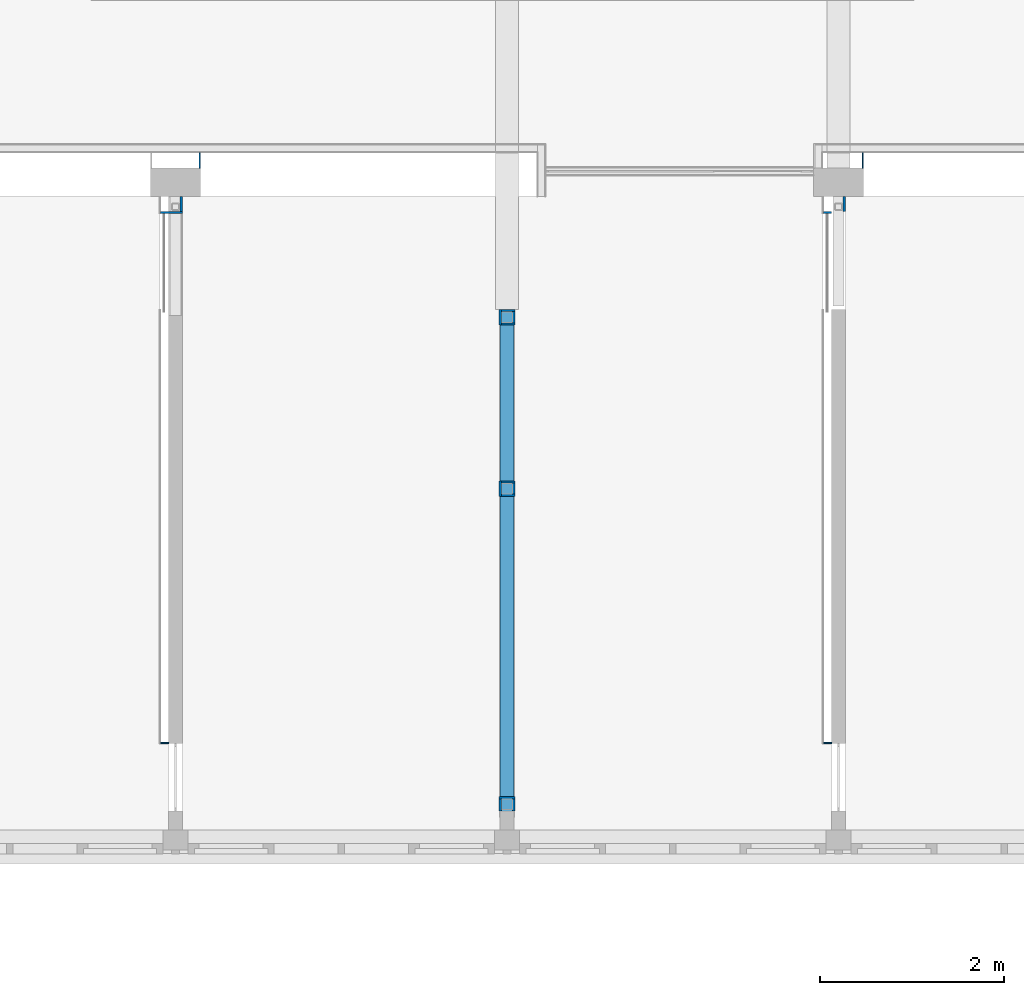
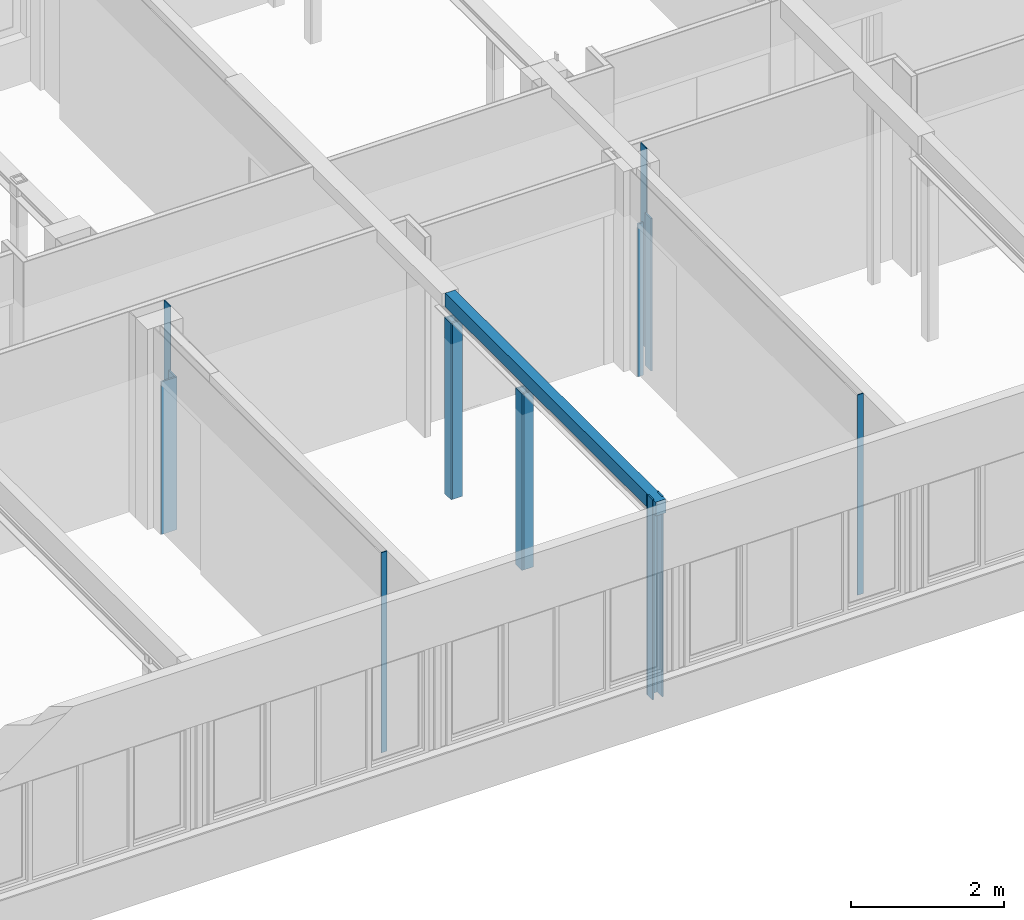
# One storey, part 51 of 99: 20 walls.
"""IFC2X3 building model written with IfcOpenShell, lengths in millimetres."""

from ifc_helpers import new_model, entity, si_unit, converted_unit, derived_unit, money_unit, direction, frame, origin_with_axes, place, context, subcontext, project, spatial, faceted_brep, material, type_object, element, save


model = new_model("IFC2X3")

# Units and contexts
model_context = context("Model", 3, precision=0.01, world=origin_with_axes(), true_north=direction((0.0, 1.0)))
body_context = subcontext(model_context, "Body", "Model", "MODEL_VIEW")
ifc_project = project(units=[si_unit("LENGTHUNIT", "METRE", prefix="MILLI"), si_unit("AREAUNIT", "SQUARE_METRE"), si_unit("VOLUMEUNIT", "CUBIC_METRE"), converted_unit("PLANEANGLEUNIT", "DEGREE", entity("IfcPlaneAngleMeasure", 0.0174532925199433), si_unit("PLANEANGLEUNIT", "RADIAN"), dimensions=[0, 0, 0, 0, 0, 0, 0]), money_unit("EUR"), converted_unit("TIMEUNIT", "Year", entity("IfcTimeMeasure", 31557600.0), si_unit("TIMEUNIT", "SECOND"), dimensions=[0, 0, 1, 0, 0, 0, 0]), si_unit("MASSUNIT", "GRAM", prefix="KILO"), si_unit("THERMODYNAMICTEMPERATUREUNIT", "DEGREE_CELSIUS"), si_unit("LUMINOUSINTENSITYUNIT", "LUMEN"), si_unit("ENERGYUNIT", "JOULE", prefix="MEGA"), derived_unit("THERMALCONDUCTANCEUNIT", [(si_unit("POWERUNIT", "WATT"), 1), (si_unit("LENGTHUNIT", "METRE"), -1), (si_unit("THERMODYNAMICTEMPERATUREUNIT", "KELVIN"), -1)]), derived_unit("SPECIFICHEATCAPACITYUNIT", [(si_unit("ENERGYUNIT", "JOULE"), 1), (si_unit("MASSUNIT", "GRAM", prefix="KILO"), -1), (si_unit("THERMODYNAMICTEMPERATUREUNIT", "KELVIN"), -1)]), derived_unit("MASSDENSITYUNIT", [(si_unit("MASSUNIT", "GRAM", prefix="KILO"), 1), (si_unit("VOLUMEUNIT", "CUBIC_METRE"), -1)])], contexts=[model_context])

# Site, building, storey
site_placement = place(None, origin_with_axes())
site = spatial("IfcSite", under=ifc_project, at=site_placement, Name="Site", CompositionType="ELEMENT")
building_placement = place(site_placement, origin_with_axes())
building = spatial("IfcBuilding", under=site, at=building_placement, Name="Naam gebouw", CompositionType="ELEMENT")
storey_placement = place(building_placement, frame((0.0, 0.0, 7650.0), z_axis=(0.0, 0.0, 1.0), x_axis=(1.0, 0.0, 0.0)))
storey = spatial("IfcBuildingStorey", under=building, at=storey_placement, Name="2e verdieping N", CompositionType="ELEMENT", Elevation=7650.0)

# Walls
ifc_material_1 = material(Name="Gipsplaat")
wall_type_1 = type_object("IfcWallType", Name="Metalstud 100 enkel 100", PredefinedType="NOTDEFINED")
for number, where, z_axis, x_axis, name in (
    (1, (43469.99999999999, 18180.91242510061, 0.0), (0.0, 0.0, 1.0), (0.0, 1.0, 0.0), "_Wand-x"),
    (2, (50669.99999999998, 18180.91242510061, 0.0), (0.0, 0.0, 1.0), (0.0, 1.0, 0.0), "_Wand-x"),
):
    element("IfcWall", number, at=place(storey_placement, frame(where, z_axis=z_axis, x_axis=x_axis)), inside=storey, type_object=wall_type_1, material=ifc_material_1, Name=name, context=body_context, shape_type="Brep", body=[
        faceted_brep([(164.999999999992, 0.0, 0.0), (164.999999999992, 12.50000000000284, 0.0), (164.9999999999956, 12.50000000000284, 3199.999999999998), (164.999999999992, 0.0, 3199.999999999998), (0.0, 0.0, 0.0), (0.0, 12.50000000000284, 0.0), (0.0, 12.50000000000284, 3199.999999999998), (0.0, 0.0, 3199.999999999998)], [[[0, 1, 2, 3]], [[0, 4, 5, 1]], [[1, 5, 6, 2]], [[2, 6, 7, 3]], [[4, 0, 3, 7]], [[5, 4, 7, 6]]]),
    ])
wall_1_placement = place(storey_placement, frame((43125.0, 11930.91242510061, 0.0), z_axis=(0.0, 0.0, 1.0), x_axis=(-1.0, 0.0, 0.0)))
element("IfcWall", 3, at=wall_1_placement, inside=storey, type_object=wall_type_1, material=ifc_material_1, Name="_Wand-x", context=body_context, shape_type="Brep", body=[
    faceted_brep([(87.49999999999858, -12.49999999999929, 3199.999999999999), (87.49999999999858, 0.0, 3199.999999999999), (0.0, 0.0, 3199.999999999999), (0.0, -12.49999999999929, 3199.999999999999), (87.49999999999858, -12.49999999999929, 0.0), (87.49999999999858, 0.0, 0.0), (0.0, 0.0, 0.0), (0.0, -12.49999999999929, 0.0)], [[[0, 1, 2, 3]], [[1, 0, 4, 5]], [[1, 5, 6, 2]], [[7, 3, 2, 6]], [[4, 0, 3, 7]], [[5, 4, 7, 6]]]),
])
wall_2_placement = place(storey_placement, frame((50324.99999999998, 11930.91242510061, 0.0), z_axis=(0.0, 0.0, 1.0), x_axis=(-1.0, 0.0, 0.0)))
element("IfcWall", 4, at=wall_2_placement, inside=storey, type_object=wall_type_1, material=ifc_material_1, Name="_Wand-x", context=body_context, shape_type="Brep", body=[
    faceted_brep([(87.49999999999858, -12.49999999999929, 3199.999999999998), (87.49999999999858, 0.0, 3199.999999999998), (0.0, 0.0, 3199.999999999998), (0.0, -12.49999999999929, 3199.999999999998), (87.49999999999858, -12.49999999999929, 0.0), (87.49999999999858, 0.0, 0.0), (0.0, 0.0, 0.0), (0.0, -12.49999999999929, 0.0)], [[[0, 1, 2, 3]], [[1, 0, 4, 5]], [[1, 5, 6, 2]], [[7, 3, 2, 6]], [[4, 0, 3, 7]], [[5, 4, 7, 6]]]),
])
wall_type_2 = type_object("IfcWallType", Name="Gipsplaat 25", PredefinedType="NOTDEFINED")
wall_3_placement = place(storey_placement, frame((46715.0, 11200.91242510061, 0.0), z_axis=(0.0, 0.0, 1.0), x_axis=(0.0, 1.0, 0.0)))
element("IfcWall", 5, at=wall_3_placement, inside=storey, type_object=wall_type_2, material=ifc_material_1, Name="_Wand-x", context=body_context, shape_type="Brep", body=[
    faceted_brep([(130.0000000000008, -24.99999999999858, 3199.999999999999), (130.0000000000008, 0.0, 3199.999999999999), (0.0, 0.0, 3199.999999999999), (0.0, -24.99999999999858, 3199.999999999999), (130.0000000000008, -24.99999999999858, 0.0), (130.0000000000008, 0.0, 0.0), (0.0, 0.0, 0.0), (0.0, -24.99999999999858, 0.0)], [[[0, 1, 2, 3]], [[1, 0, 4, 5]], [[1, 5, 6, 2]], [[7, 3, 2, 6]], [[4, 0, 3, 7]], [[5, 4, 7, 6]]]),
])
wall_4_placement = place(storey_placement, frame((46885.0, 11200.91242510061, 0.0), z_axis=(0.0, 0.0, 1.0), x_axis=(0.0, 1.0, 0.0)))
element("IfcWall", 6, at=wall_4_placement, inside=storey, type_object=wall_type_2, material=ifc_material_1, Name="_Wand-x", context=body_context, shape_type="Brep", body=[
    faceted_brep([(129.999999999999, 25.00000000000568, 0.0), (130.0000000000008, 0.0, 0.0), (0.0, 0.0, 0.0), (0.0, 24.99999999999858, 0.0), (129.999999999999, 25.00000000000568, 3199.999999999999), (130.0000000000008, 0.0, 3199.999999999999), (0.0, 0.0, 3199.999999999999), (0.0, 24.99999999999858, 3199.999999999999)], [[[0, 1, 2, 3]], [[1, 0, 4, 5]], [[1, 5, 6, 2]], [[7, 3, 2, 6]], [[4, 0, 3, 7]], [[5, 4, 7, 6]]]),
])
wall_5_placement = place(storey_placement, frame((46715.0, 16475.91242510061, 0.0), z_axis=(0.0, 0.0, 1.0), x_axis=(0.0, 1.0, 0.0)))
element("IfcWall", 7, at=wall_5_placement, inside=storey, type_object=wall_type_2, material=ifc_material_1, Name="_Wand-x", context=body_context, shape_type="Brep", body=[
    faceted_brep([(169.999999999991, -24.99999999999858, 2819.999999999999), (169.999999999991, 0.0, 2819.999999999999), (0.0, 0.0, 2819.999999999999), (0.0, -24.99999999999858, 2819.999999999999), (169.999999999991, -24.99999999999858, 0.0), (169.999999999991, 0.0, 0.0), (0.0, 0.0, 0.0), (0.0, -24.99999999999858, 0.0)], [[[0, 1, 2, 3]], [[1, 0, 4, 5]], [[1, 5, 6, 2]], [[7, 3, 2, 6]], [[4, 0, 3, 7]], [[5, 4, 7, 6]]]),
])
wall_6_placement = place(storey_placement, frame((46715.0, 16475.91242510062, 0.0), z_axis=(0.0, 0.0, 1.0), x_axis=(1.0, 0.0, 0.0)))
element("IfcWall", 8, at=wall_6_placement, inside=storey, type_object=wall_type_2, material=ifc_material_1, Name="_Wand-x", context=body_context, shape_type="Brep", body=[
    faceted_brep([(169.9999999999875, 25.00000000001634, 0.0), (169.9999999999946, 0.0, 0.0), (24.99999999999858, 0.0, 0.0), (24.99999999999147, 25.00000000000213, 0.0), (169.9999999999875, 25.00000000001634, 2819.999999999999), (169.9999999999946, 0.0, 2819.999999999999), (24.99999999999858, 0.0, 2819.999999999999), (24.99999999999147, 25.00000000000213, 2819.999999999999)], [[[0, 1, 2, 3]], [[1, 0, 4, 5]], [[1, 5, 6, 2]], [[7, 3, 2, 6]], [[4, 0, 3, 7]], [[5, 4, 7, 6]]]),
])
wall_7_placement = place(storey_placement, frame((46885.0, 16475.9124251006, 0.0), z_axis=(0.0, 0.0, 1.0), x_axis=(0.0, 1.0, 0.0)))
element("IfcWall", 9, at=wall_7_placement, inside=storey, type_object=wall_type_2, material=ifc_material_1, Name="_Wand-x", context=body_context, shape_type="Brep", body=[
    faceted_brep([(145.0000000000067, 25.00000000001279, 0.0), (145.0000000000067, 0.0, 0.0), (24.99999999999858, 0.0, 0.0), (25.00000000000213, 24.99999999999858, 0.0), (145.0000000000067, 25.00000000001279, 2819.999999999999), (145.0000000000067, 0.0, 2819.999999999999), (24.99999999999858, 0.0, 2819.999999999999), (25.00000000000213, 24.99999999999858, 2819.999999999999)], [[[0, 1, 2, 3]], [[1, 0, 4, 5]], [[1, 5, 6, 2]], [[7, 3, 2, 6]], [[4, 0, 3, 7]], [[5, 4, 7, 6]]]),
])
wall_8_placement = place(storey_placement, frame((46715.0, 11355.91242510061, 0.0), z_axis=(0.0, 0.0, 1.0), x_axis=(1.0, 0.0, 0.0)))
element("IfcWall", 10, at=wall_8_placement, inside=storey, type_object=wall_type_2, material=ifc_material_1, Name="_Wand-x", context=body_context, shape_type="Brep", body=[
    faceted_brep([(9.999999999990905, 0.0, 3200.000000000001), (9.999999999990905, 0.0, 2979.999999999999), (159.9999999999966, 0.0, 2979.999999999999), (159.9999999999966, 0.0, 3200.000000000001), (170.0000000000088, 0.0, 3199.999999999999), (170.0000000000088, 0.0, 0.0), (0.0, 0.0, 0.0), (0.0, 0.0, 3199.999999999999), (9.999999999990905, -25.00000000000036, 2979.999999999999), (9.999999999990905, -25.00000000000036, 3200.000000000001), (159.9999999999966, -25.00000000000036, 2979.999999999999), (159.9999999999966, -25.00000000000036, 3200.000000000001), (170.0000000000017, -25.00000000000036, 3199.999999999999), (170.0000000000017, -25.00000000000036, 0.0), (0.0, -25.00000000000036, 0.0), (0.0, -25.00000000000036, 3199.999999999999)], [[[0, 1, 2, 3, 4, 5, 6, 7]], [[8, 1, 0, 9]], [[10, 2, 1, 8]], [[10, 11, 3, 2]], [[4, 3, 11, 12]], [[5, 4, 12, 13]], [[6, 5, 13, 14]], [[6, 14, 15, 7]], [[15, 9, 0, 7]], [[10, 8, 9, 15, 14, 13, 12, 11]]]),
])
wall_9_placement = place(storey_placement, frame((46715.0, 16645.9124251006, 0.0), z_axis=(0.0, 0.0, 1.0), x_axis=(1.0, 0.0, 0.0)))
element("IfcWall", 11, at=wall_9_placement, inside=storey, type_object=wall_type_2, material=ifc_material_1, Name="_Wand-x", context=body_context, shape_type="Brep", body=[
    faceted_brep([(170.0000000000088, -24.99999999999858, 2819.999999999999), (170.0000000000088, 0.0, 2819.999999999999), (24.99999999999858, 0.0, 2819.999999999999), (24.99999999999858, -24.99999999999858, 2819.999999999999), (170.0000000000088, -24.99999999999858, 0.0), (170.0000000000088, 0.0, 0.0), (24.99999999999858, 0.0, 0.0), (24.99999999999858, -24.99999999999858, 0.0)], [[[0, 1, 2, 3]], [[1, 0, 4, 5]], [[1, 5, 6, 2]], [[7, 3, 2, 6]], [[4, 0, 3, 7]], [[5, 4, 7, 6]]]),
])
wall_10_placement = place(storey_placement, frame((43275.00000000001, 17685.91242510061, 0.0), z_axis=(0.0, 0.0, 1.0), x_axis=(-1.0, 0.0, 0.0)))
element("IfcWall", 12, at=wall_10_placement, inside=storey, type_object=wall_type_2, material=ifc_material_1, Name="_Wand-x", context=body_context, shape_type="Brep", body=[
    faceted_brep([(237.5000000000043, -24.99999999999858, 2440.0), (237.5000000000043, 0.0, 2440.0), (0.0, 0.0, 2440.0), (0.0, -24.99999999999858, 2440.0), (237.5000000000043, -24.99999999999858, 0.0), (237.5000000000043, 0.0, 0.0), (0.0, 0.0, 0.0), (0.0, -24.99999999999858, 0.0)], [[[0, 1, 2, 3]], [[1, 0, 4, 5]], [[1, 5, 6, 2]], [[7, 3, 2, 6]], [[4, 0, 3, 7]], [[5, 4, 7, 6]]]),
])
for number, where, z_axis, x_axis, name in (
    (13, (50474.99999999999, 17685.91242510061, 0.0), (0.0, 0.0, 1.0), (0.0, 1.0, 0.0), "_Wand-x"),
    (14, (43275.00000000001, 17685.91242510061, 0.0), (0.0, 0.0, 1.0), (0.0, 1.0, 0.0), "_Wand-x"),
):
    element("IfcWall", number, at=place(storey_placement, frame(where, z_axis=z_axis, x_axis=x_axis)), inside=storey, type_object=wall_type_2, material=ifc_material_1, Name=name, context=body_context, shape_type="Brep", body=[
        faceted_brep([(24.99999999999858, 0.0, 0.0), (24.99999999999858, 24.99999999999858, 0.0), (184.9999999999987, 24.99999999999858, 0.0), (184.9999999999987, 0.0, 0.0), (24.99999999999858, 0.0, 2440.0), (24.99999999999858, 24.99999999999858, 2440.0), (184.9999999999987, 24.99999999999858, 2440.0), (184.9999999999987, 0.0, 2440.0)], [[[0, 1, 2, 3]], [[4, 5, 1, 0]], [[1, 5, 6, 2]], [[7, 3, 2, 6]], [[4, 0, 3, 7]], [[5, 4, 7, 6]]]),
    ])
wall_11_placement = place(storey_placement, frame((50474.99999999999, 17685.91242510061, 0.0), z_axis=(0.0, 0.0, 1.0), x_axis=(-1.0, 0.0, 0.0)))
element("IfcWall", 15, at=wall_11_placement, inside=storey, type_object=wall_type_2, material=ifc_material_1, Name="_Wand-x", context=body_context, shape_type="Brep", body=[
    faceted_brep([(237.5000000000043, -24.99999999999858, 2440.0), (237.5000000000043, 0.0, 2440.0), (150.0000000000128, 0.0, 2440.0), (150.0000000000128, -24.99999999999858, 2440.0), (237.5000000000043, -24.99999999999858, 0.0), (237.5000000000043, 0.0, 0.0), (150.0000000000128, 0.0, 0.0), (150.0000000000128, -24.99999999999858, 0.0)], [[[0, 1, 2, 3]], [[1, 0, 4, 5]], [[1, 5, 6, 2]], [[7, 3, 2, 6]], [[4, 0, 3, 7]], [[5, 4, 7, 6]]]),
])
wall_12_placement = place(storey_placement, frame((46715.0, 14614.84204585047, 0.0), z_axis=(0.0, 0.0, 1.0), x_axis=(0.0, 1.0, 0.0)))
element("IfcWall", 16, at=wall_12_placement, inside=storey, type_object=wall_type_2, material=ifc_material_1, Name="_Wand-x", context=body_context, shape_type="Brep", body=[
    faceted_brep([(169.999999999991, -24.99999999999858, 2819.999999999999), (169.999999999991, 0.0, 2819.999999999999), (0.0, 0.0, 2819.999999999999), (0.0, -24.99999999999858, 2819.999999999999), (169.999999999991, -24.99999999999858, 0.0), (169.999999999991, 0.0, 0.0), (0.0, 0.0, 0.0), (0.0, -24.99999999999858, 0.0)], [[[0, 1, 2, 3]], [[1, 0, 4, 5]], [[1, 5, 6, 2]], [[7, 3, 2, 6]], [[4, 0, 3, 7]], [[5, 4, 7, 6]]]),
])
wall_13_placement = place(storey_placement, frame((46715.0, 14784.84204585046, 0.0), z_axis=(0.0, 0.0, 1.0), x_axis=(1.0, 0.0, 0.0)))
element("IfcWall", 17, at=wall_13_placement, inside=storey, type_object=wall_type_2, material=ifc_material_1, Name="_Wand-x", context=body_context, shape_type="Brep", body=[
    faceted_brep([(170.0000000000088, -25.00000000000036, 2819.999999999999), (170.0000000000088, 0.0, 2819.999999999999), (24.99999999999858, 0.0, 2819.999999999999), (24.99999999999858, -25.00000000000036, 2819.999999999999), (170.0000000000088, -25.00000000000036, 0.0), (170.0000000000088, 0.0, 0.0), (24.99999999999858, 0.0, 0.0), (24.99999999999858, -25.00000000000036, 0.0)], [[[0, 1, 2, 3]], [[1, 0, 4, 5]], [[1, 5, 6, 2]], [[7, 3, 2, 6]], [[4, 0, 3, 7]], [[5, 4, 7, 6]]]),
])
wall_14_placement = place(storey_placement, frame((46715.0, 14614.84204585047, 0.0), z_axis=(0.0, 0.0, 1.0), x_axis=(1.0, 0.0, 0.0)))
element("IfcWall", 18, at=wall_14_placement, inside=storey, type_object=wall_type_2, material=ifc_material_1, Name="_Wand-x", context=body_context, shape_type="Brep", body=[
    faceted_brep([(169.9999999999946, 25.00000000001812, 0.0), (169.9999999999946, 0.0, 0.0), (24.99999999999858, 0.0, 0.0), (24.99999999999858, 25.00000000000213, 0.0), (169.9999999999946, 25.00000000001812, 2819.999999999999), (169.9999999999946, 0.0, 2819.999999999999), (24.99999999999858, 0.0, 2819.999999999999), (24.99999999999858, 25.00000000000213, 2819.999999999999)], [[[0, 1, 2, 3]], [[1, 0, 4, 5]], [[1, 5, 6, 2]], [[7, 3, 2, 6]], [[4, 0, 3, 7]], [[5, 4, 7, 6]]]),
])
wall_15_placement = place(storey_placement, frame((46885.0, 14614.84204585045, 0.0), z_axis=(0.0, 0.0, 1.0), x_axis=(0.0, 1.0, 0.0)))
element("IfcWall", 19, at=wall_15_placement, inside=storey, type_object=wall_type_2, material=ifc_material_1, Name="_Wand-x", context=body_context, shape_type="Brep", body=[
    faceted_brep([(145.0000000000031, 25.00000000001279, 0.0), (145.0000000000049, 0.0, 0.0), (25.00000000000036, 0.0, 0.0), (25.00000000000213, 24.99999999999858, 0.0), (145.0000000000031, 25.00000000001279, 2819.999999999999), (145.0000000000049, 0.0, 2819.999999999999), (25.00000000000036, 0.0, 2819.999999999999), (25.00000000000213, 24.99999999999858, 2819.999999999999)], [[[0, 1, 2, 3]], [[1, 0, 4, 5]], [[1, 5, 6, 2]], [[7, 3, 2, 6]], [[4, 0, 3, 7]], [[5, 4, 7, 6]]]),
])
ifc_material_2 = material(Name="Steen - Betonblok C")
wall_type_3 = type_object("IfcWallType", Name="Steen - Betonblok C 150", PredefinedType="NOTDEFINED")
wall_16_placement = place(storey_placement, frame((46800.0, 16645.91242510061, 2979.999999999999), z_axis=(0.0, 0.0, 1.0), x_axis=(0.0, -1.0, 0.0)))
element("IfcWall", 20, at=wall_16_placement, inside=storey, type_object=wall_type_3, material=ifc_material_2, Name="_Wand-x", context=body_context, shape_type="Brep", body=[
    faceted_brep([(0.0, -75.00000000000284, 220.0000000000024), (5515.000000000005, -75.00000000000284, 220.0000000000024), (5515.000000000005, 75.00000000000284, 220.0000000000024), (0.0, 75.00000000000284, 220.0000000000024), (0.0, -75.00000000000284, 0.0), (5515.000000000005, -75.00000000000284, 0.0), (5515.000000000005, 75.00000000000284, 0.0), (0.0, 75.00000000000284, 0.0)], [[[0, 1, 2, 3]], [[4, 5, 1, 0]], [[2, 1, 5, 6]], [[3, 2, 6, 7]], [[4, 0, 3, 7]], [[7, 6, 5, 4]]]),
])

save(model, "model.ifc")
